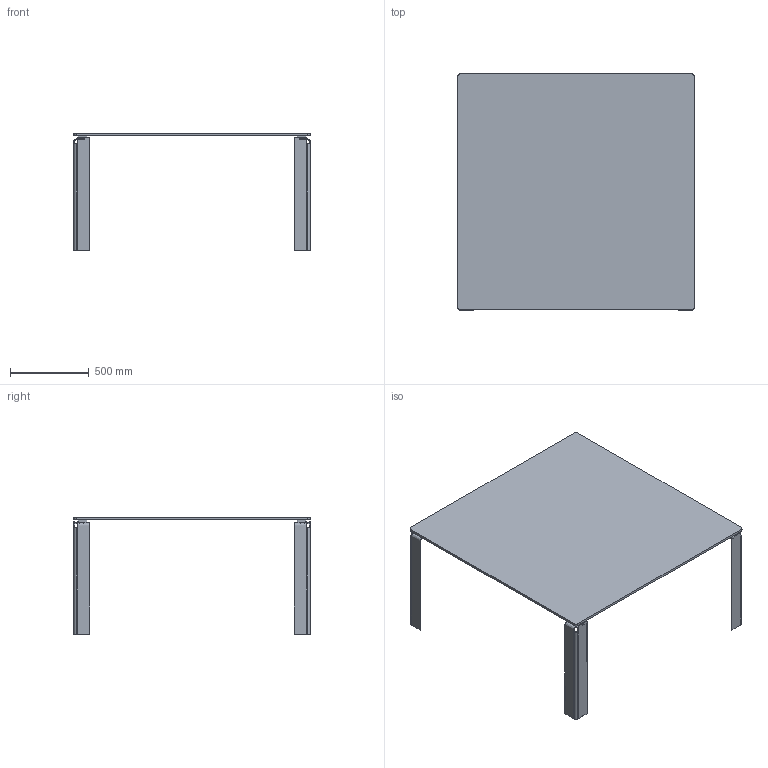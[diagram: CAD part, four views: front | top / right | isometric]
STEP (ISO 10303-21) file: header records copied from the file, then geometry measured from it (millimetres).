
FILE_DESCRIPTION(/* description */ (''),/* implementation_level */ '2;1');
FILE_NAME(/* name */ '4014AC - Newton 150x150 Acciaio',/* time_stamp */ '2012-06-20T09:51:32+02:00',/* author */ (''),/* organization */ (''),/* preprocessor_version */ 'ST-DEVELOPER v10',/* originating_system */ '',/* authorisation */ '');
FILE_SCHEMA (('CONFIG_CONTROL_DESIGN'));
Length unit declared in the file: millimetre
Products named in the file (1): 1
Bounding box: 1500 x 1500 x 742 mm (x, y, z)
Volume: 37325884.8 mm3; surface area: 5816081.3 mm2
Topology: 9 solids, 9 shells, 174 faces, 412 edges, 248 vertices
Faces by surface type: bspline 96, plane 78
Entity records: 5288 total; most frequent: CARTESIAN_POINT 2628, ORIENTED_EDGE 824, EDGE_CURVE 412, VERTEX_POINT 248, B_SPLINE_CURVE_WITH_KNOTS 232, EDGE_LOOP 206, ADVANCED_FACE 174, FACE_OUTER_BOUND 174
